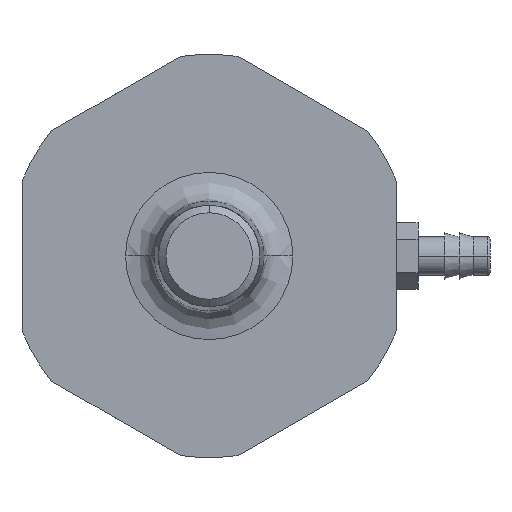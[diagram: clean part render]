
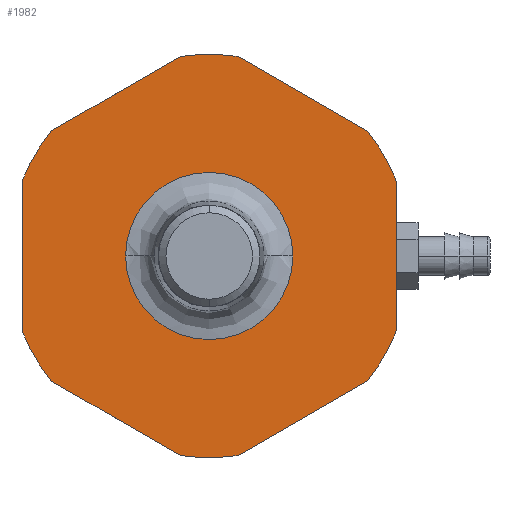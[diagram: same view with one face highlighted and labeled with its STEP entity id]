
A CAD part, left-side view. The second image highlights one B-rep face of the part: STEP entity #1982.
In plain terms, the highlighted planar face has unit normal (-1, 0, 0).
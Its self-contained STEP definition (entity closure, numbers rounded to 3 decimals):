
#1375=CARTESIAN_POINT('',(-2.875,0.363,0.));
#1376=VERTEX_POINT('',#1375);
#1386=CARTESIAN_POINT('',(-2.875,-0.363,0.));
#1387=VERTEX_POINT('',#1386);
#1388=CARTESIAN_POINT('',(-2.875,0.0,0.0));
#1389=DIRECTION('',(-1.0,0.0,0.0));
#1390=DIRECTION('',(0.0,0.0,1.0));
#1391=AXIS2_PLACEMENT_3D('',#1388,#1389,#1390);
#1392=CIRCLE('',#1391,0.363);
#1393=EDGE_CURVE('',#1376,#1387,#1392,.T.);
#1460=CARTESIAN_POINT('',(-2.875,-0.688,-0.541));
#1461=VERTEX_POINT('',#1460);
#1468=CARTESIAN_POINT('',(-2.875,-0.125,-0.866));
#1469=VERTEX_POINT('',#1468);
#1470=CARTESIAN_POINT('',(-2.875,-0.688,-0.541));
#1471=DIRECTION('',(0.0,0.866,-0.5));
#1472=VECTOR('',#1471,0.65);
#1473=LINE('',#1470,#1472);
#1474=EDGE_CURVE('',#1461,#1469,#1473,.T.);
#1499=CARTESIAN_POINT('',(-2.875,-0.813,-0.325));
#1500=VERTEX_POINT('',#1499);
#1507=CARTESIAN_POINT('',(-2.875,0.,0.0));
#1508=DIRECTION('',(1.0,0.0,0.0));
#1509=DIRECTION('',(0.0,-0.866,-0.5));
#1510=AXIS2_PLACEMENT_3D('',#1507,#1508,#1509);
#1511=CIRCLE('',#1510,0.875);
#1512=EDGE_CURVE('',#1500,#1461,#1511,.T.);
#1531=CARTESIAN_POINT('',(-2.875,-0.813,0.325));
#1532=VERTEX_POINT('',#1531);
#1539=CARTESIAN_POINT('',(-2.875,-0.813,0.325));
#1540=DIRECTION('',(0.0,0.0,-1.0));
#1541=VECTOR('',#1540,0.65);
#1542=LINE('',#1539,#1541);
#1543=EDGE_CURVE('',#1532,#1500,#1542,.T.);
#1563=CARTESIAN_POINT('',(-2.875,-0.688,0.541));
#1564=VERTEX_POINT('',#1563);
#1571=CARTESIAN_POINT('',(-2.875,0.0,0.0));
#1572=DIRECTION('',(1.0,0.0,0.0));
#1573=DIRECTION('',(0.0,-0.866,0.5));
#1574=AXIS2_PLACEMENT_3D('',#1571,#1572,#1573);
#1575=CIRCLE('',#1574,0.875);
#1576=EDGE_CURVE('',#1564,#1532,#1575,.T.);
#1595=CARTESIAN_POINT('',(-2.875,-0.125,0.866));
#1596=VERTEX_POINT('',#1595);
#1603=CARTESIAN_POINT('',(-2.875,-0.125,0.866));
#1604=DIRECTION('',(0.0,-0.866,-0.5));
#1605=VECTOR('',#1604,0.65);
#1606=LINE('',#1603,#1605);
#1607=EDGE_CURVE('',#1596,#1564,#1606,.T.);
#1627=CARTESIAN_POINT('',(-2.875,0.125,0.866));
#1628=VERTEX_POINT('',#1627);
#1635=CARTESIAN_POINT('',(-2.875,0.,0.));
#1636=DIRECTION('',(1.0,0.0,0.0));
#1637=DIRECTION('',(0.0,0.0,1.0));
#1638=AXIS2_PLACEMENT_3D('',#1635,#1636,#1637);
#1639=CIRCLE('',#1638,0.875);
#1640=EDGE_CURVE('',#1628,#1596,#1639,.T.);
#1659=CARTESIAN_POINT('',(-2.875,0.687,0.541));
#1660=VERTEX_POINT('',#1659);
#1667=CARTESIAN_POINT('',(-2.875,0.687,0.541));
#1668=DIRECTION('',(0.0,-0.866,0.5));
#1669=VECTOR('',#1668,0.65);
#1670=LINE('',#1667,#1669);
#1671=EDGE_CURVE('',#1660,#1628,#1670,.T.);
#1691=CARTESIAN_POINT('',(-2.875,0.812,0.325));
#1692=VERTEX_POINT('',#1691);
#1699=CARTESIAN_POINT('',(-2.875,0.,0.));
#1700=DIRECTION('',(1.0,0.0,0.0));
#1701=DIRECTION('',(0.0,0.866,0.5));
#1702=AXIS2_PLACEMENT_3D('',#1699,#1700,#1701);
#1703=CIRCLE('',#1702,0.875);
#1704=EDGE_CURVE('',#1692,#1660,#1703,.T.);
#1723=CARTESIAN_POINT('',(-2.875,0.812,-0.325));
#1724=VERTEX_POINT('',#1723);
#1731=CARTESIAN_POINT('',(-2.875,0.812,-0.325));
#1732=DIRECTION('',(0.0,0.0,1.0));
#1733=VECTOR('',#1732,0.65);
#1734=LINE('',#1731,#1733);
#1735=EDGE_CURVE('',#1724,#1692,#1734,.T.);
#1755=CARTESIAN_POINT('',(-2.875,0.687,-0.541));
#1756=VERTEX_POINT('',#1755);
#1763=CARTESIAN_POINT('',(-2.875,0.,0.0));
#1764=DIRECTION('',(1.0,0.0,0.0));
#1765=DIRECTION('',(0.0,0.866,-0.5));
#1766=AXIS2_PLACEMENT_3D('',#1763,#1764,#1765);
#1767=CIRCLE('',#1766,0.875);
#1768=EDGE_CURVE('',#1756,#1724,#1767,.T.);
#1787=CARTESIAN_POINT('',(-2.875,0.125,-0.866));
#1788=VERTEX_POINT('',#1787);
#1795=CARTESIAN_POINT('',(-2.875,0.125,-0.866));
#1796=DIRECTION('',(0.0,0.866,0.5));
#1797=VECTOR('',#1796,0.65);
#1798=LINE('',#1795,#1797);
#1799=EDGE_CURVE('',#1788,#1756,#1798,.T.);
#1818=CARTESIAN_POINT('',(-2.875,0.,0.));
#1819=DIRECTION('',(1.0,0.0,0.0));
#1820=DIRECTION('',(0.0,0.0,-1.0));
#1821=AXIS2_PLACEMENT_3D('',#1818,#1819,#1820);
#1822=CIRCLE('',#1821,0.875);
#1823=EDGE_CURVE('',#1469,#1788,#1822,.T.);
#1926=CARTESIAN_POINT('',(-2.875,0.0,0.363));
#1927=VERTEX_POINT('',#1926);
#1928=CARTESIAN_POINT('',(-2.875,0.0,0.0));
#1929=DIRECTION('',(-1.0,0.0,0.0));
#1930=DIRECTION('',(0.0,0.0,1.0));
#1931=AXIS2_PLACEMENT_3D('',#1928,#1929,#1930);
#1932=CIRCLE('',#1931,0.363);
#1933=EDGE_CURVE('',#1387,#1927,#1932,.T.);
#1935=CARTESIAN_POINT('',(-2.875,0.0,0.0));
#1936=DIRECTION('',(-1.0,0.0,0.0));
#1937=DIRECTION('',(0.0,0.0,1.0));
#1938=AXIS2_PLACEMENT_3D('',#1935,#1936,#1937);
#1939=CIRCLE('',#1938,0.363);
#1940=EDGE_CURVE('',#1927,#1376,#1939,.T.);
#1958=CARTESIAN_POINT('',(-2.875,0.,0.0));
#1959=DIRECTION('',(-1.0,0.0,0.0));
#1960=DIRECTION('',(0.0,0.0,1.0));
#1961=AXIS2_PLACEMENT_3D('',#1958,#1959,#1960);
#1962=PLANE('',#1961);
#1963=ORIENTED_EDGE('',*,*,#1823,.F.);
#1964=ORIENTED_EDGE('',*,*,#1474,.F.);
#1965=ORIENTED_EDGE('',*,*,#1512,.F.);
#1966=ORIENTED_EDGE('',*,*,#1543,.F.);
#1967=ORIENTED_EDGE('',*,*,#1576,.F.);
#1968=ORIENTED_EDGE('',*,*,#1607,.F.);
#1969=ORIENTED_EDGE('',*,*,#1640,.F.);
#1970=ORIENTED_EDGE('',*,*,#1671,.F.);
#1971=ORIENTED_EDGE('',*,*,#1704,.F.);
#1972=ORIENTED_EDGE('',*,*,#1735,.F.);
#1973=ORIENTED_EDGE('',*,*,#1768,.F.);
#1974=ORIENTED_EDGE('',*,*,#1799,.F.);
#1975=EDGE_LOOP('',(#1963,#1964,#1965,#1966,#1967,#1968,#1969,#1970,#1971,#1972,#1973,#1974));
#1976=FACE_OUTER_BOUND('',#1975,.T.);
#1977=ORIENTED_EDGE('',*,*,#1940,.F.);
#1978=ORIENTED_EDGE('',*,*,#1933,.F.);
#1979=ORIENTED_EDGE('',*,*,#1393,.F.);
#1980=EDGE_LOOP('',(#1977,#1978,#1979));
#1981=FACE_BOUND('',#1980,.T.);
#1982=ADVANCED_FACE('',(#1976,#1981),#1962,.T.);
